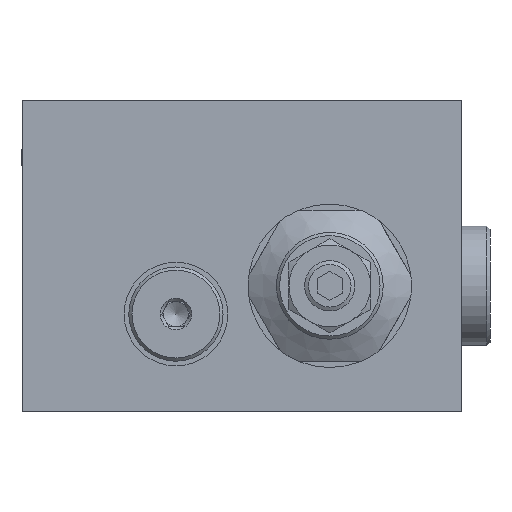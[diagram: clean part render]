
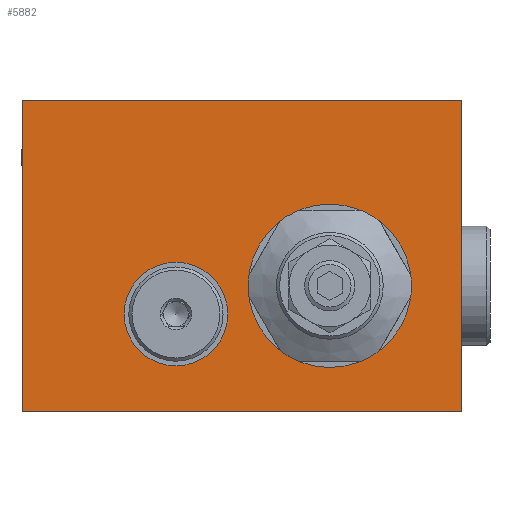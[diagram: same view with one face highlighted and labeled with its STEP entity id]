
A CAD part, left-side view. The second image highlights one B-rep face of the part: STEP entity #5882.
In plain terms, the highlighted planar face has unit normal (-1, 0, 0).
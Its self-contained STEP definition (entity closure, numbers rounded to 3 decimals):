
#169 = ORIENTED_EDGE ( 'NONE', *, *, #11568, .T. ) ;
#289 = DIRECTION ( 'NONE',  ( 0., -1., 0. ) ) ;
#518 = ORIENTED_EDGE ( 'NONE', *, *, #13801, .F. ) ;
#788 = EDGE_CURVE ( 'NONE', #3168, #3168, #13849, .T. ) ;
#1314 = CARTESIAN_POINT ( 'NONE',  ( -40., 35., 24.75 ) ) ;
#2033 = DIRECTION ( 'NONE',  ( -1., 0., 0. ) ) ;
#2134 = FACE_BOUND ( 'NONE', #13724, .T. ) ;
#2299 = VECTOR ( 'NONE', #7632, 1000. ) ;
#2367 = DIRECTION ( 'NONE',  ( 0., -1., 0. ) ) ;
#2525 = CARTESIAN_POINT ( 'NONE',  ( -40., -35., 24.75 ) ) ;
#2540 = CARTESIAN_POINT ( 'NONE',  ( -40., 35., 24.75 ) ) ;
#2852 = ORIENTED_EDGE ( 'NONE', *, *, #12934, .F. ) ;
#3152 = CARTESIAN_POINT ( 'NONE',  ( -40., -27., -4.75 ) ) ;
#3168 = VERTEX_POINT ( 'NONE', #8210 ) ;
#3233 = ORIENTED_EDGE ( 'NONE', *, *, #6632, .T. ) ;
#3726 = EDGE_CURVE ( 'NONE', #9858, #13260, #7938, .T. ) ;
#4092 = VECTOR ( 'NONE', #2367, 1000. ) ;
#4211 = CARTESIAN_POINT ( 'NONE',  ( -40., 35., -24.75 ) ) ;
#4811 = ORIENTED_EDGE ( 'NONE', *, *, #788, .F. ) ;
#4848 = CARTESIAN_POINT ( 'NONE',  ( -40., 35., 24.75 ) ) ;
#4955 = CARTESIAN_POINT ( 'NONE',  ( -40., -14., -4.75 ) ) ;
#5435 = VERTEX_POINT ( 'NONE', #3152 ) ;
#5550 = CIRCLE ( 'NONE', #8717, 13. ) ;
#5882 = ADVANCED_FACE ( 'NONE', ( #2134, #8091, #10832 ), #10712, .F. ) ;
#6235 = DIRECTION ( 'NONE',  ( 0., 0., -1. ) ) ;
#6314 = CARTESIAN_POINT ( 'NONE',  ( -40., 35., -24.75 ) ) ;
#6620 = CARTESIAN_POINT ( 'NONE',  ( -40., -35., 24.75 ) ) ;
#6632 = EDGE_CURVE ( 'NONE', #13427, #14246, #7085, .T. ) ;
#7085 = LINE ( 'NONE', #4211, #10893 ) ;
#7285 = EDGE_LOOP ( 'NONE', ( #4811 ) ) ;
#7304 = DIRECTION ( 'NONE',  ( -1., 0., 0. ) ) ;
#7632 = DIRECTION ( 'NONE',  ( 0., 0., -1. ) ) ;
#7832 = DIRECTION ( 'NONE',  ( 0., -1., 0. ) ) ;
#7849 = CARTESIAN_POINT ( 'NONE',  ( -40., 35., 24.75 ) ) ;
#7938 = LINE ( 'NONE', #1314, #4092 ) ;
#7991 = AXIS2_PLACEMENT_3D ( 'NONE', #4848, #11653, #8328 ) ;
#8091 = FACE_BOUND ( 'NONE', #7285, .T. ) ;
#8210 = CARTESIAN_POINT ( 'NONE',  ( -40., 2.25, -9.25 ) ) ;
#8328 = DIRECTION ( 'NONE',  ( 0., 1., 0. ) ) ;
#8464 = LINE ( 'NONE', #6620, #2299 ) ;
#8717 = AXIS2_PLACEMENT_3D ( 'NONE', #4955, #7304, #289 ) ;
#8836 = CARTESIAN_POINT ( 'NONE',  ( -40., -35., -24.75 ) ) ;
#9858 = VERTEX_POINT ( 'NONE', #7849 ) ;
#10459 = ORIENTED_EDGE ( 'NONE', *, *, #3726, .F. ) ;
#10712 = PLANE ( 'NONE',  #7991 ) ;
#10832 = FACE_OUTER_BOUND ( 'NONE', #12639, .T. ) ;
#10893 = VECTOR ( 'NONE', #12317, 1000. ) ;
#11568 = EDGE_CURVE ( 'NONE', #9858, #13427, #13040, .T. ) ;
#11653 = DIRECTION ( 'NONE',  ( 1., 0., 0. ) ) ;
#12317 = DIRECTION ( 'NONE',  ( 0., -1., 0. ) ) ;
#12324 = VECTOR ( 'NONE', #6235, 1000. ) ;
#12639 = EDGE_LOOP ( 'NONE', ( #3233, #2852, #10459, #169 ) ) ;
#12934 = EDGE_CURVE ( 'NONE', #13260, #14246, #8464, .T. ) ;
#13040 = LINE ( 'NONE', #2540, #12324 ) ;
#13260 = VERTEX_POINT ( 'NONE', #2525 ) ;
#13427 = VERTEX_POINT ( 'NONE', #6314 ) ;
#13724 = EDGE_LOOP ( 'NONE', ( #518 ) ) ;
#13801 = EDGE_CURVE ( 'NONE', #5435, #5435, #5550, .T. ) ;
#13849 = CIRCLE ( 'NONE', #14342, 8.25 ) ;
#14246 = VERTEX_POINT ( 'NONE', #8836 ) ;
#14342 = AXIS2_PLACEMENT_3D ( 'NONE', #14909, #2033, #7832 ) ;
#14909 = CARTESIAN_POINT ( 'NONE',  ( -40., 10.5, -9.25 ) ) ;
